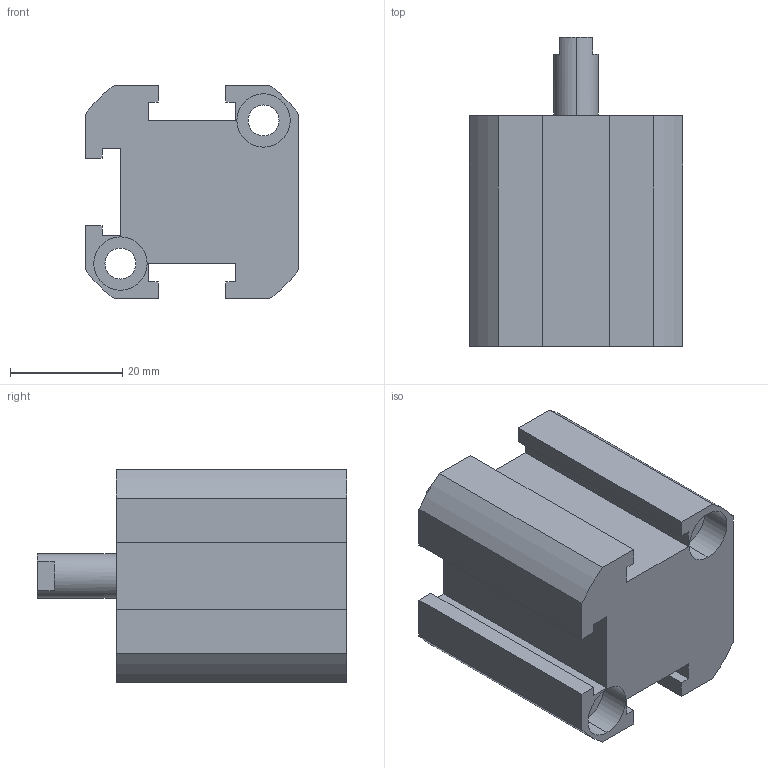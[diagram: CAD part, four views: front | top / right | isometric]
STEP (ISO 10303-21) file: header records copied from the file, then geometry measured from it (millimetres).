
FILE_DESCRIPTION (( 'STEP AP203' ), '1' );
FILE_NAME ('XG#0-20D-10.STEP', '2016-05-24T01:31:07', ( '' ), ( '' ), 'SwSTEP 2.0', 'SolidWorks 2014', '' );
FILE_SCHEMA (( 'CONFIG_CONTROL_DESIGN' ));
Length unit declared in the file: millimetre
Products named in the file (1): XG#0-20D-10
Bounding box: 38 x 55 x 38 mm (x, y, z)
Volume: 43565.2 mm3; surface area: 12850.8 mm2
Topology: 1 solids, 1 shells, 85 faces, 217 edges, 141 vertices
Faces by surface type: plane 44, cylinder 37, cone 4
Entity records: 2647 total; most frequent: DIRECTION 464, CARTESIAN_POINT 440, ORIENTED_EDGE 426, EDGE_CURVE 213, AXIS2_PLACEMENT_3D 165, VERTEX_POINT 141, VECTOR 134, LINE 134
